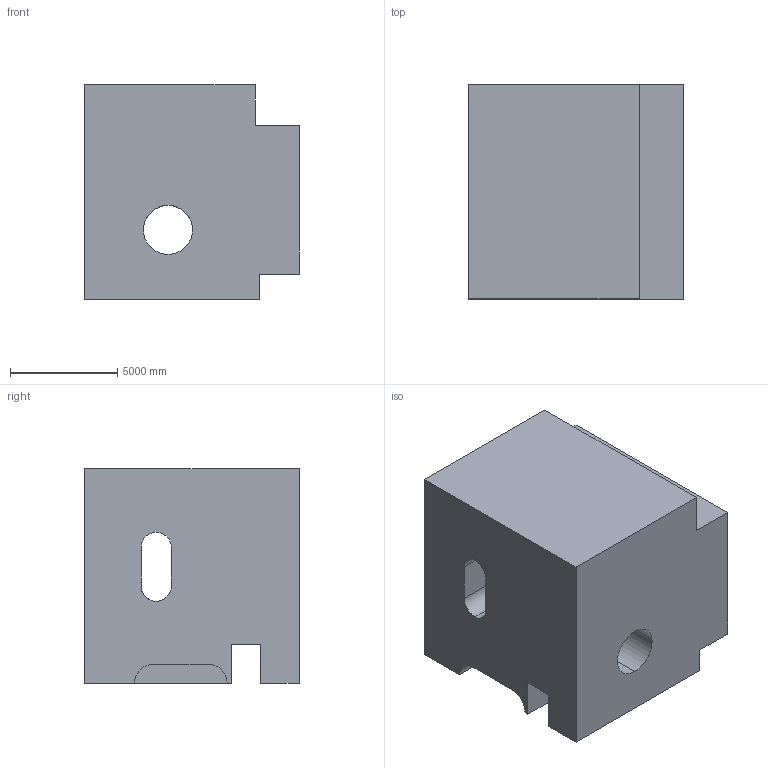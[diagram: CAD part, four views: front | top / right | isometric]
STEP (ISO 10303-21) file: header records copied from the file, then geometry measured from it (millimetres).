
FILE_DESCRIPTION (( 'STEP AP203' ), '1' );
FILE_NAME ('1684.STEP', '2022-08-25T15:27:49', ( 'user' ), ( '' ), 'SwSTEP 2.0', 'SolidWorks 2021', '' );
FILE_SCHEMA (( 'CONFIG_CONTROL_DESIGN' ));
Length unit declared in the file: centimetre
Products named in the file (1): 1684
Bounding box: 10000 x 10000 x 10000 mm (x, y, z)
Volume: 807604270061.6 mm3; surface area: 752355596.9 mm2
Topology: 1 solids, 1 shells, 31 faces, 92 edges, 61 vertices
Faces by surface type: plane 22, cylinder 9
Entity records: 1459 total; most frequent: CARTESIAN_POINT 527, ORIENTED_EDGE 184, DIRECTION 170, EDGE_CURVE 92, VECTOR 70, LINE 70, VERTEX_POINT 61, AXIS2_PLACEMENT_3D 50
